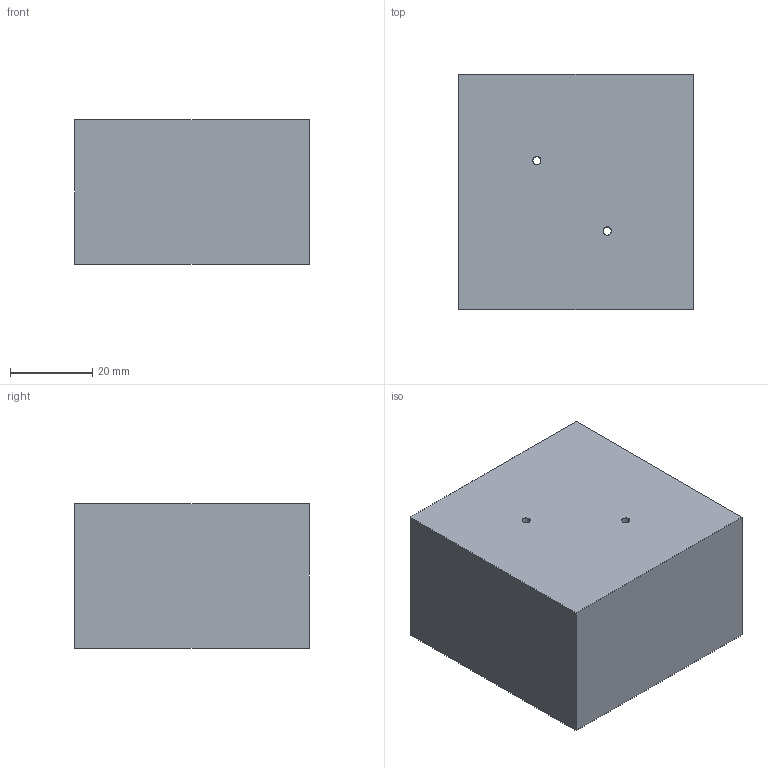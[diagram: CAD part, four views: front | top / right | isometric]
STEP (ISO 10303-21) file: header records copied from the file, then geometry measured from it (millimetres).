
FILE_DESCRIPTION (( 'STEP AP203' ), '1' );
FILE_NAME ('FT20ES12.STEP', '2026-06-26T01:11:33', ( 'USER' ), ( '' ), 'SwSTEP 2.0', 'SolidWorks 2023', '' );
FILE_SCHEMA (( 'CONFIG_CONTROL_DESIGN' ));
Length unit declared in the file: millimetre
Products named in the file (1): FT20ES12
Bounding box: 57 x 57 x 35 mm (x, y, z)
Volume: 85715 mm3; surface area: 18967.1 mm2
Topology: 1 solids, 1 shells, 34 faces, 84 edges, 54 vertices
Faces by surface type: cylinder 16, plane 10, cone 8
Entity records: 1215 total; most frequent: CARTESIAN_POINT 305, DIRECTION 176, ORIENTED_EDGE 168, EDGE_CURVE 84, AXIS2_PLACEMENT_3D 69, VERTEX_POINT 54, EDGE_LOOP 44, VECTOR 38
